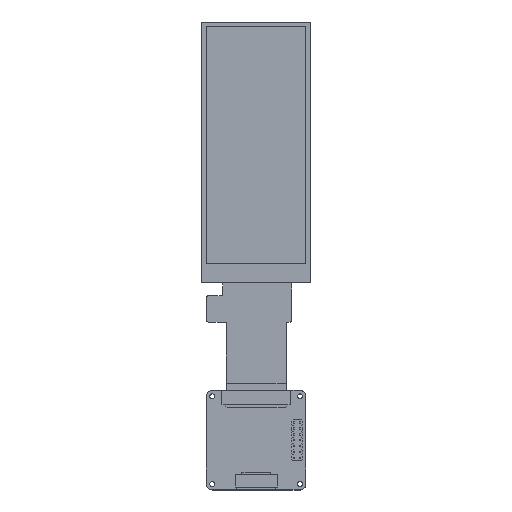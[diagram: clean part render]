
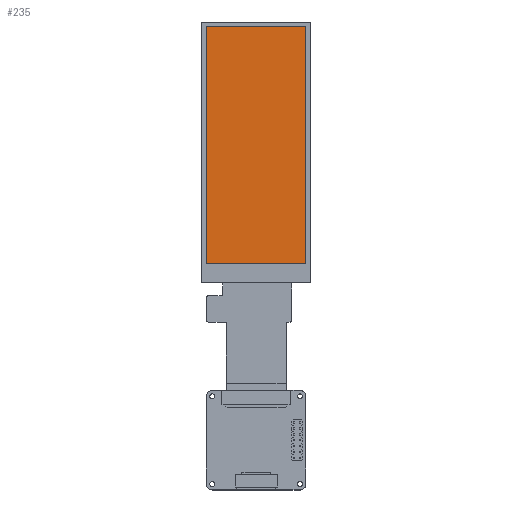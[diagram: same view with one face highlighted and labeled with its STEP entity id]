
A CAD part, top view. The second image highlights one B-rep face of the part: STEP entity #235.
In plain terms, the highlighted planar face has unit normal (0, 0, 1).
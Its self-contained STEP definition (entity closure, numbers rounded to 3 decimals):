
#83=DIRECTION('',(1.,0.,0.));
#84=VECTOR('',#83,33.97);
#85=CARTESIAN_POINT('',(-16.985,87.45,1.52));
#86=LINE('',#85,#84);
#87=DIRECTION('',(0.,1.,0.));
#88=VECTOR('',#87,81.);
#89=CARTESIAN_POINT('',(-16.985,6.45,1.52));
#90=LINE('',#89,#88);
#91=DIRECTION('',(-1.,0.,0.));
#92=VECTOR('',#91,33.97);
#93=CARTESIAN_POINT('',(16.985,6.45,1.52));
#94=LINE('',#93,#92);
#95=DIRECTION('',(0.,-1.,0.));
#96=VECTOR('',#95,81.);
#97=CARTESIAN_POINT('',(16.985,87.45,1.52));
#98=LINE('',#97,#96);
#115=CARTESIAN_POINT('',(-16.985,87.45,1.52));
#116=CARTESIAN_POINT('',(16.985,87.45,1.52));
#117=VERTEX_POINT('',#115);
#118=VERTEX_POINT('',#116);
#119=CARTESIAN_POINT('',(16.985,6.45,1.52));
#120=VERTEX_POINT('',#119);
#121=CARTESIAN_POINT('',(-16.985,6.45,1.52));
#122=VERTEX_POINT('',#121);
#224=CARTESIAN_POINT('',(0.,0.,1.52));
#225=DIRECTION('',(0.,0.,1.));
#226=DIRECTION('',(1.,0.,0.));
#227=AXIS2_PLACEMENT_3D('',#224,#225,#226);
#228=PLANE('',#227);
#229=ORIENTED_EDGE('',*,*,#206,.T.);
#230=ORIENTED_EDGE('',*,*,#212,.T.);
#231=ORIENTED_EDGE('',*,*,#210,.T.);
#232=ORIENTED_EDGE('',*,*,#208,.T.);
#233=EDGE_LOOP('',(#229,#230,#231,#232));
#234=FACE_OUTER_BOUND('',#233,.F.);
#206=EDGE_CURVE('',#117,#118,#86,.T.);
#208=EDGE_CURVE('',#122,#117,#90,.T.);
#210=EDGE_CURVE('',#120,#122,#94,.T.);
#212=EDGE_CURVE('',#118,#120,#98,.T.);
#235=ADVANCED_FACE('',(#234),#228,.T.);
